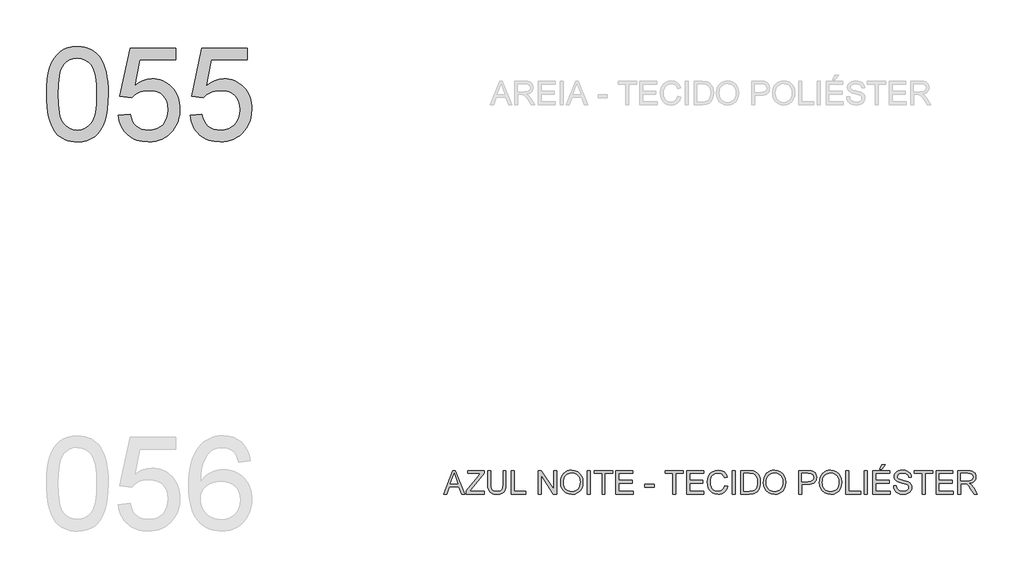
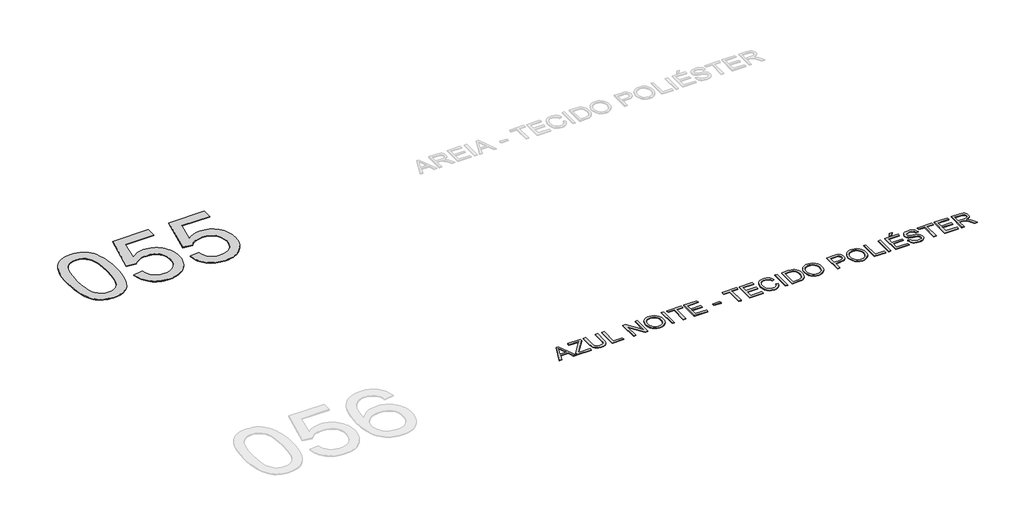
# One storey, part 17 of 67: 2 proxies.
"""IFC4 building model written with IfcOpenShell, lengths in millimetres."""

from ifc_helpers import new_model, si_unit, origin, origin_with_axes, place, context, project, spatial, polyline, outline, extrude, element, save

model = new_model("IFC4")

# Units and contexts
model_context = context("Model", 3, world=origin())
ifc_project = project(units=[si_unit("LENGTHUNIT", "METRE", prefix="MILLI")], contexts=[model_context])

# Site, building, storey
site = spatial("IfcSite", under=ifc_project)
building = spatial("IfcBuilding", under=site)
storey = spatial("IfcBuildingStorey", under=building, Name="Marelli - Linha COLAB - Planta Baixa", Elevation=0.0)

# Proxies
placement = place(None, origin())
element("IfcBuildingElementProxy", 1, Name="1200mm Arial", ObjectType="1200mm Arial", at=placement, inside=storey, context=model_context, shape_type="SweptSolid", body=[
    extrude(outline(polyline([(-25134.0424838, -39895.792664), (-25131.2741718, -39794.4319773), (-25122.9692358, -39702.8385576), (-25109.1276757, -39621.0124048), (-25089.7494916, -39548.953519), (-25064.9174569, -39486.073289), (-25034.7143451, -39431.7831035), (-24999.1401562, -39386.0829627), (-24958.1948901, -39348.9728664), (-24911.7405912, -39320.2596767), (-24859.6393036, -39299.7502555), (-24801.8910274, -39287.4446027), (-24738.4957626, -39283.3427185), (-24690.8550442, -39285.7707396), (-24645.642347, -39293.0548031), (-24602.857671, -39305.194909), (-24562.5010161, -39322.1910572), (-24525.5472697, -39343.7581391), (-24492.971319, -39369.6110463), (-24464.7731641, -39399.7497788), (-24440.9528049, -39434.1743365), (-24420.314625, -39472.7467637), (-24401.6630078, -39515.3291046), (-24370.3194618, -39612.5235278), (-24358.3449029, -39669.6831928), (-24349.7916465, -39735.9479371), (-24344.6596927, -39811.3177609), (-24342.9490414, -39895.792664), (-24345.6897623, -39996.5095573), (-24353.9119248, -40087.6431245), (-24367.6155292, -40169.1933658), (-24386.8005752, -40241.1602811), (-24411.4394718, -40304.0681023), (-24441.5046279, -40358.4410612), (-24476.9960434, -40404.2791578), (-24517.9137183, -40441.5823921), (-24564.4231995, -40470.4887199), (-24616.690034, -40491.1360968), (-24674.7142217, -40503.524523), (-24738.4957626, -40507.6539984), (-24781.170074, -40505.8605737), (-24821.4899407, -40500.4802995), (-24859.4553626, -40491.5131759), (-24895.0663398, -40478.9592028), (-24928.3228721, -40462.8183803), (-24959.2249597, -40443.0907083), (-24987.7726025, -40419.7761868), (-25013.9658006, -40392.8748159), (-25042.1087732, -40350.2786794), (-25066.4993495, -40302.0999336), (-25087.1375294, -40248.3385785), (-25104.023313, -40188.9946142), (-25117.1567002, -40124.0680406), (-25126.5376911, -40053.5588577), (-25132.1662856, -39977.4670655), (-25134.0424838, -39895.792664)]), holes=[polyline([(-24983.3580186, -39895.4983584), (-24978.9434347, -40026.4919399), (-24965.6996828, -40132.5247279), (-24955.766869, -40176.1808245), (-24943.6267631, -40213.5967226), (-24929.2793653, -40244.7724225), (-24912.7246755, -40269.7079239), (-24875.3478648, -40307.884878), (-24833.8507758, -40335.1541309), (-24788.2334084, -40351.5156826), (-24738.4957626, -40356.9695332), (-24688.7581169, -40351.4972885), (-24643.1407495, -40335.0805545), (-24601.6436604, -40307.7193311), (-24564.2668497, -40269.4136183), (-24547.7121599, -40244.418336), (-24533.3647621, -40213.2104465), (-24521.2246563, -40175.7899498), (-24511.2918424, -40132.1568459), (-24498.0480906, -40026.2528166), (-24493.6335066, -39895.4983584), (-24497.9009378, -39767.9720648), (-24510.7032312, -39663.8062779), (-24520.3049513, -39620.4835744), (-24532.0403869, -39583.0009976), (-24545.9095381, -39551.3585475), (-24561.9124049, -39525.5562241), (-24598.6638162, -39485.5122689), (-24640.6391519, -39456.9094438), (-24687.8384119, -39439.7477487), (-24740.2615962, -39434.0271837), (-24789.7417245, -39439.067167), (-24834.5865397, -39454.187117), (-24874.7960418, -39479.3870337), (-24910.3702308, -39514.666917), (-24927.4767435, -39543.2145599), (-24942.3023879, -39577.2068562), (-24954.847164, -39616.6438061), (-24965.1110716, -39661.5254095), (-24978.7962819, -39767.6225769), (-24983.3580186, -39895.4983584)])]), origin_with_axes(), (0.0, 0.0, 1.0), 10.0),
    extrude(outline(polyline([(-24211.1001343, -40168.6139517), (-24060.4156691, -40149.7783935), (-24049.15848, -40198.2192552), (-24032.7509431, -40240.2405761), (-24011.1930581, -40275.8423562), (-23984.4848253, -40305.0245955), (-23952.6814268, -40327.7505057), (-23915.838045, -40343.9832988), (-23873.9546798, -40353.7229746), (-23827.0313314, -40356.9695332), (-23769.6417401, -40352.4537817), (-23719.0211776, -40338.9065272), (-23675.1696437, -40316.3277698), (-23638.0871386, -40284.7175093), (-23608.6013967, -40245.6392444), (-23587.5401525, -40200.6564734), (-23574.903406, -40149.7691965), (-23570.6911571, -40092.9774135), (-23574.6366915, -40039.3034304), (-23586.4732947, -39991.5891356), (-23606.2009667, -39949.8345291), (-23633.8197075, -39914.039611), (-23669.4214876, -39885.3264213), (-23713.0982775, -39864.817), (-23764.8500771, -39852.5113473), (-23824.6768866, -39848.4094631), (-23862.9642052, -39850.0465379), (-23897.775039, -39854.9577626), (-23929.109388, -39863.143137), (-23956.9672521, -39874.6026611), (-24004.2400884, -39904.6954083), (-24041.5801109, -39942.5872538), (-24192.2645762, -39923.7516957), (-24060.4156691, -39302.1782766), (-23476.5133664, -39302.1782766), (-23476.5133664, -39452.8627418), (-23938.5731523, -39452.8627418), (-24003.0260778, -39784.8394543), (-23949.8487354, -39746.7268796), (-23895.3838061, -39719.503612), (-23839.6312897, -39703.1696514), (-23782.5911863, -39697.7249978), (-23745.1522955, -39699.4126565), (-23709.2079254, -39704.4756324), (-23674.7580758, -39712.9139257), (-23641.8027468, -39724.7275363), (-23610.3419384, -39739.9164642), (-23580.3756506, -39758.4807093), (-23551.9038835, -39780.4202718), (-23524.9266369, -39805.7351516), (-23500.3360248, -39833.7033803), (-23479.024161, -39863.6029895), (-23460.9910454, -39895.4339791), (-23446.2366781, -39929.1963492), (-23434.7610592, -39964.8900998), (-23426.5641885, -40002.5152308), (-23421.646066, -40042.0717424), (-23420.0066919, -40083.5596344), (-23425.9111979, -40161.6241938), (-23433.2918304, -40198.6147284), (-23443.624716, -40234.2440996), (-23456.9098545, -40268.5123075), (-23473.1472461, -40301.4193519), (-23492.3368907, -40332.965233), (-23514.4787883, -40363.1499507), (-23544.479565, -40397.0180869), (-23577.0923038, -40426.3704716), (-23612.3170049, -40451.2071048), (-23650.1536681, -40471.5279865), (-23690.6022934, -40487.3331167), (-23733.662881, -40498.6224954), (-23779.3354307, -40505.3961227), (-23827.6199425, -40507.6539984), (-23905.3809993, -40501.8506599), (-23941.4403326, -40494.5964869), (-23975.6188692, -40484.4406445), (-24007.9166091, -40471.383133), (-24038.3335523, -40455.4239522), (-24066.8696989, -40436.5631021), (-24093.5250487, -40414.8005828), (-24117.8627419, -40390.6422321), (-24139.4459187, -40364.5938875), (-24158.2745791, -40336.6555493), (-24174.348723, -40306.8272173), (-24187.6683505, -40275.1088915), (-24198.2334615, -40241.500572), (-24211.1001343, -40168.6139517)])), origin_with_axes(), (0.0, 0.0, 1.0), 10.0),
    extrude(outline(polyline([(-23288.1577848, -40168.6139517), (-23137.4733196, -40149.7783935), (-23126.2161305, -40198.2192552), (-23109.8085936, -40240.2405761), (-23088.2507086, -40275.8423562), (-23061.5424758, -40305.0245955), (-23029.7390773, -40327.7505057), (-22992.8956955, -40343.9832988), (-22951.0123303, -40353.7229746), (-22904.0889819, -40356.9695332), (-22846.6993906, -40352.4537817), (-22796.0788281, -40338.9065272), (-22752.2272942, -40316.3277698), (-22715.1447891, -40284.7175093), (-22685.6590472, -40245.6392444), (-22664.597803, -40200.6564734), (-22651.9610565, -40149.7691965), (-22647.7488076, -40092.9774135), (-22651.694342, -40039.3034304), (-22663.5309452, -39991.5891356), (-22683.2586172, -39949.8345291), (-22710.877358, -39914.039611), (-22746.4791381, -39885.3264213), (-22790.155928, -39864.817), (-22841.9077276, -39852.5113473), (-22901.7345371, -39848.4094631), (-22940.0218557, -39850.0465379), (-22974.8326895, -39854.9577626), (-23006.1670385, -39863.143137), (-23034.0249026, -39874.6026611), (-23081.2977389, -39904.6954083), (-23118.6377614, -39942.5872538), (-23269.3222267, -39923.7516957), (-23137.4733196, -39302.1782766), (-22553.5710169, -39302.1782766), (-22553.5710169, -39452.8627418), (-23015.6308028, -39452.8627418), (-23080.0837284, -39784.8394543), (-23026.9063859, -39746.7268796), (-22972.4414566, -39719.503612), (-22916.6889402, -39703.1696514), (-22859.6488368, -39697.7249978), (-22822.209946, -39699.4126565), (-22786.2655759, -39704.4756324), (-22751.8157263, -39712.9139257), (-22718.8603973, -39724.7275363), (-22687.3995889, -39739.9164642), (-22657.4333011, -39758.4807093), (-22628.961534, -39780.4202718), (-22601.9842874, -39805.7351516), (-22577.3936753, -39833.7033803), (-22556.0818115, -39863.6029895), (-22538.0486959, -39895.4339791), (-22523.2943287, -39929.1963492), (-22511.8187097, -39964.8900998), (-22503.621839, -40002.5152308), (-22498.7037165, -40042.0717424), (-22497.0643424, -40083.5596344), (-22502.9688484, -40161.6241938), (-22510.3494809, -40198.6147284), (-22520.6823665, -40234.2440996), (-22533.967505, -40268.5123075), (-22550.2048966, -40301.4193519), (-22569.3945412, -40332.965233), (-22591.5364388, -40363.1499507), (-22621.5372155, -40397.0180869), (-22654.1499543, -40426.3704716), (-22689.3746554, -40451.2071048), (-22727.2113186, -40471.5279865), (-22767.6599439, -40487.3331167), (-22810.7205315, -40498.6224954), (-22856.3930812, -40505.3961227), (-22904.677593, -40507.6539984), (-22982.4386498, -40501.8506599), (-23018.4979831, -40494.5964869), (-23052.6765197, -40484.4406445), (-23084.9742596, -40471.383133), (-23115.3912028, -40455.4239522), (-23143.9273494, -40436.5631021), (-23170.5826992, -40414.8005828), (-23194.9203924, -40390.6422321), (-23216.5035692, -40364.5938875), (-23235.3322296, -40336.6555493), (-23251.4063735, -40306.8272173), (-23264.726001, -40275.1088915), (-23275.291112, -40241.500572), (-23288.1577848, -40168.6139517)])), origin_with_axes(), (0.0, 0.0, 1.0), 10.0),
])
element("IfcBuildingElementProxy", 2, Name="300mm Arial", ObjectType="300mm Arial", at=placement, inside=storey, context=model_context, shape_type="SweptSolid", body=[
    extrude(outline(polyline([(-20035.3554191, -45030.5663201), (-19915.0580067, -44729.1973896), (-19882.9786967, -44729.1973896), (-19762.6812843, -45030.5663201), (-19802.4861162, -45030.5663201), (-19836.9934473, -44936.3885293), (-19961.1168325, -44936.3885293), (-19995.5505873, -45030.5663201), (-20035.3554191, -45030.5663201)]), holes=[polyline([(-19947.2844695, -44898.717413), (-19850.752234, -44898.717413), (-19877.9019252, -44824.6259792), (-19899.0183517, -44766.8685059), (-19917.7803335, -44818.1512561), (-19947.2844695, -44898.717413)])]), origin_with_axes(), (0.0, 0.0, 1.0), 10.0),
    extrude(outline(polyline([(-19745.9794417, -45030.5663201), (-19745.9794417, -44991.4972522), (-19591.8368858, -44802.7737887), (-19562.5534789, -44766.8685059), (-19727.1438836, -44766.8685059), (-19727.1438836, -44729.1973896), (-19515.2438544, -44729.1973896), (-19515.2438544, -44766.8685059), (-19683.9545373, -44973.397458), (-19699.8470395, -44992.8952038), (-19510.5349648, -44992.8952038), (-19510.5349648, -45030.5663201), (-19745.9794417, -45030.5663201)])), origin_with_axes(), (0.0, 0.0, 1.0), 10.0),
    extrude(outline(polyline([(-19270.3815984, -44729.1973896), (-19232.7104821, -44729.1973896), (-19232.7104821, -44903.0584205), (-19235.2672619, -44943.7737604), (-19242.9376015, -44975.1265034), (-19257.2666052, -44999.3147446), (-19279.7993774, -45018.5365788), (-19310.5911004, -45031.0905519), (-19349.6969565, -45035.2752096), (-19387.947487, -45031.6331779), (-19418.5276778, -45020.7070826), (-19441.4467261, -45002.8740029), (-19456.7138289, -44978.5110178), (-19465.2946765, -44945.8338995), (-19468.154959, -44903.0584205), (-19468.154959, -44729.1973896), (-19430.4838427, -44729.1973896), (-19430.4838427, -44901.7340454), (-19428.6260386, -44935.588386), (-19423.0526264, -44959.1604248), (-19412.9542656, -44975.4851883), (-19397.5216159, -44987.597703), (-19377.3984708, -44995.1024957), (-19353.2286237, -44997.6040933), (-19314.9137139, -44992.6560805), (-19300.5709146, -44986.4710644), (-19289.4378857, -44977.812042), (-19281.10076, -44965.6351479), (-19275.1456702, -44948.8965171), (-19270.3815984, -44901.7340454), (-19270.3815984, -44729.1973896)])), origin_with_axes(), (0.0, 0.0, 1.0), 10.0),
    extrude(outline(polyline([(-19166.7860285, -45030.5663201), (-19166.7860285, -44729.1973896), (-19129.1149122, -44729.1973896), (-19129.1149122, -44992.8952038), (-18978.430447, -44992.8952038), (-18978.430447, -45030.5663201), (-19166.7860285, -45030.5663201)])), origin_with_axes(), (0.0, 0.0, 1.0), 10.0),
    extrude(outline(polyline([(-18818.3282027, -45030.5663201), (-18818.3282027, -44729.1973896), (-18778.008336, -44729.1973896), (-18620.5548421, -44967.9528045), (-18620.5548421, -44729.1973896), (-18582.8837258, -44729.1973896), (-18582.8837258, -45030.5663201), (-18623.2035925, -45030.5663201), (-18780.6570864, -44791.7373288), (-18780.6570864, -45030.5663201), (-18818.3282027, -45030.5663201)])), origin_with_axes(), (0.0, 0.0, 1.0), 10.0),
    extrude(outline(polyline([(-18531.0859409, -44883.8549804), (-18528.5751462, -44848.5061192), (-18521.0427624, -44817.213157), (-18508.4887893, -44789.9760937), (-18490.913227, -44766.7949295), (-18469.3691376, -44748.2858666), (-18444.9095835, -44735.0651074), (-18417.5345645, -44727.1326519), (-18387.2440807, -44724.4885001), (-18347.7151604, -44729.454907), (-18312.2697301, -44744.3541278), (-18282.8391705, -44768.1376988), (-18261.354862, -44799.7571563), (-18248.2214748, -44837.68579), (-18243.843679, -44880.3968896), (-18248.451401, -44923.6782064), (-18262.274567, -44962.140269), (-18284.5498218, -44993.8149087), (-18314.5138103, -45016.733957), (-18349.6557379, -45030.6398965), (-18387.4648099, -45035.2752096), (-18427.6007356, -45030.1524528), (-18463.2485009, -45014.7841825), (-18492.6054842, -44990.5591531), (-18513.8690635, -44958.8661192), (-18526.7817215, -44922.3998164), (-18531.0859409, -44883.8549804)]), holes=[polyline([(-18493.4148246, -44884.2228624), (-18491.5317286, -44909.1974513), (-18485.8824407, -44931.3669401), (-18476.4669609, -44950.7313286), (-18463.2852891, -44967.2906169), (-18447.261729, -44980.5527628), (-18429.3205839, -44990.0257242), (-18409.461854, -44995.709501), (-18387.6855391, -44997.6040933), (-18365.5367438, -44995.6911069), (-18345.443489, -44989.9521478), (-18327.405775, -44980.3872159), (-18311.4236015, -44966.9963113), (-18298.3384988, -44950.0875351), (-18288.9919969, -44929.9689885), (-18283.3840957, -44906.6406715), (-18281.5147953, -44880.102584), (-18284.7153687, -44846.7540812), (-18294.3170888, -44817.9305269), (-18310.0716352, -44794.358488), (-18331.7306877, -44776.7645316), (-18357.8595064, -44765.8108452), (-18387.0233515, -44762.1596164), (-18408.043209, -44763.9185522), (-18427.5455533, -44769.1953595), (-18445.5303844, -44777.9900385), (-18461.9977022, -44790.302589), (-18475.7426932, -44806.7262208), (-18485.560544, -44827.8541437), (-18491.4512544, -44853.6863575), (-18493.4148246, -44884.2228624)])]), origin_with_axes(), (0.0, 0.0, 1.0), 10.0),
    extrude(outline(polyline([(-18187.3370046, -45030.5663201), (-18187.3370046, -44729.1973896), (-18149.6658883, -44729.1973896), (-18149.6658883, -45030.5663201), (-18187.3370046, -45030.5663201)])), origin_with_axes(), (0.0, 0.0, 1.0), 10.0),
    extrude(outline(polyline([(-17998.981423, -45030.5663201), (-17998.981423, -44766.8685059), (-18097.8681033, -44766.8685059), (-18097.8681033, -44729.1973896), (-17862.4236264, -44729.1973896), (-17862.4236264, -44766.8685059), (-17961.3103067, -44766.8685059), (-17961.3103067, -45030.5663201), (-17998.981423, -45030.5663201)])), origin_with_axes(), (0.0, 0.0, 1.0), 10.0),
    extrude(outline(polyline([(-17820.0436206, -45030.5663201), (-17820.0436206, -44729.1973896), (-17603.4347018, -44729.1973896), (-17603.4347018, -44766.8685059), (-17782.3725043, -44766.8685059), (-17782.3725043, -44856.3374072), (-17612.8524809, -44856.3374072), (-17612.8524809, -44894.0085235), (-17782.3725043, -44894.0085235), (-17782.3725043, -44992.8952038), (-17598.7258123, -44992.8952038), (-17598.7258123, -45030.5663201), (-17820.0436206, -45030.5663201)])), origin_with_axes(), (0.0, 0.0, 1.0), 10.0),
    extrude(outline(polyline([(-17448.0413471, -44941.0974188), (-17448.0413471, -44903.4263025), (-17330.3191086, -44903.4263025), (-17330.3191086, -44941.0974188), (-17448.0413471, -44941.0974188)])), origin_with_axes(), (0.0, 0.0, 1.0), 10.0),
    extrude(outline(polyline([(-17090.1657422, -45030.5663201), (-17090.1657422, -44766.8685059), (-17189.0524225, -44766.8685059), (-17189.0524225, -44729.1973896), (-16953.6079455, -44729.1973896), (-16953.6079455, -44766.8685059), (-17052.4946258, -44766.8685059), (-17052.4946258, -45030.5663201), (-17090.1657422, -45030.5663201)])), origin_with_axes(), (0.0, 0.0, 1.0), 10.0),
    extrude(outline(polyline([(-16911.2279397, -45030.5663201), (-16911.2279397, -44729.1973896), (-16694.6190209, -44729.1973896), (-16694.6190209, -44766.8685059), (-16873.5568234, -44766.8685059), (-16873.5568234, -44856.3374072), (-16704.0368, -44856.3374072), (-16704.0368, -44894.0085235), (-16873.5568234, -44894.0085235), (-16873.5568234, -44992.8952038), (-16689.9101314, -44992.8952038), (-16689.9101314, -45030.5663201), (-16911.2279397, -45030.5663201)])), origin_with_axes(), (0.0, 0.0, 1.0), 10.0),
    extrude(outline(polyline([(-16421.5034277, -44923.4390831), (-16383.8323114, -44933.1511677), (-16391.2865203, -44956.5783531), (-16401.2147357, -44977.0486868), (-16413.6169574, -44994.5621691), (-16428.4931856, -45009.1187997), (-16445.5077279, -45020.5622291), (-16464.324892, -45028.7361071), (-16484.9446778, -45033.640434), (-16507.3670854, -45035.2752096), (-16551.0622694, -45030.3271968), (-16585.7627386, -45015.4831583), (-16612.3606068, -44991.2581289), (-16631.747988, -44958.1671434), (-16643.5845912, -44919.2636224), (-16647.5301256, -44877.6009865), (-16643.0695564, -44833.6574821), (-16629.6878488, -44795.7104543), (-16608.0839786, -44764.9647166), (-16578.9569217, -44742.6250824), (-16544.4128023, -44729.0226457), (-16506.557745, -44724.4885001), (-16465.253794, -44730.3562179), (-16447.2850578, -44737.6908652), (-16431.1051478, -44747.9593714), (-16416.9807784, -44760.8904235), (-16405.1786642, -44776.2127086), (-16388.541201, -44814.0309777), (-16426.2123173, -44823.0072984), (-16439.2721281, -44795.5357104), (-16457.1144049, -44776.6909552), (-16479.9598768, -44765.7924511), (-16508.029273, -44762.1596164), (-16540.3844945, -44766.1879242), (-16566.9639686, -44778.2728478), (-16587.133099, -44797.1451941), (-16600.2572892, -44821.5357704), (-16607.4585792, -44849.1085259), (-16609.8590092, -44877.5274101), (-16607.0171208, -44912.3290468), (-16598.4914556, -44942.421794), (-16583.9601168, -44966.6560205), (-16563.1012077, -44983.8820949), (-16538.094429, -44994.1735937), (-16511.1194817, -44997.6040933), (-16479.6747682, -44992.931992), (-16453.4723731, -44978.9156879), (-16433.6895188, -44955.702334), (-16421.5034277, -44923.4390831)])), origin_with_axes(), (0.0, 0.0, 1.0), 10.0),
    extrude(outline(polyline([(-16327.325637, -45030.5663201), (-16327.325637, -44729.1973896), (-16289.6545206, -44729.1973896), (-16289.6545206, -45030.5663201), (-16327.325637, -45030.5663201)])), origin_with_axes(), (0.0, 0.0, 1.0), 10.0),
    extrude(outline(polyline([(-16214.312288, -45030.5663201), (-16214.312288, -44729.1973896), (-16110.3488362, -44729.1973896), (-16056.5644885, -44733.5383972), (-16032.5417942, -44741.9077126), (-16012.2714963, -44755.0962821), (-15991.4309813, -44778.0521186), (-15976.5869428, -44806.5997614), (-15967.7025926, -44840.1873876), (-15964.7411425, -44878.2631741), (-15966.7460994, -44910.6091985), (-15972.76097, -44939.0740679), (-15981.9212317, -44963.3082943), (-15993.3623617, -44982.9623899), (-16006.5325372, -44998.477813), (-16020.879935, -45010.2960221), (-16037.3518513, -45019.0608107), (-16056.8955823, -45025.4159721), (-16105.3456411, -45030.5663201), (-16214.312288, -45030.5663201)]), holes=[polyline([(-16176.6411717, -44992.8952038), (-16109.9809542, -44992.8952038), (-16082.4081987, -44991.5340404), (-16061.4941072, -44987.4505502), (-16045.7119696, -44980.8838566), (-16033.5350756, -44972.0730828), (-16020.4476736, -44955.7667134), (-16010.6160273, -44934.6594839), (-16004.4632009, -44908.6594239), (-16002.4122588, -44877.6745629), (-16006.4313696, -44836.6189322), (-16018.488702, -44806.3054558), (-16036.3033876, -44785.4833349), (-16057.5945581, -44772.9017706), (-16079.2628076, -44768.3768221), (-16111.0110238, -44766.8685059), (-16176.6411717, -44766.8685059), (-16176.6411717, -44992.8952038)])]), origin_with_axes(), (0.0, 0.0, 1.0), 10.0),
    extrude(outline(polyline([(-15927.0700262, -44883.8549804), (-15924.5592316, -44848.5061192), (-15917.0268477, -44817.213157), (-15904.4728746, -44789.9760937), (-15886.8973123, -44766.7949295), (-15865.353223, -44748.2858666), (-15840.8936688, -44735.0651074), (-15813.5186499, -44727.1326519), (-15783.2281661, -44724.4885001), (-15743.6992457, -44729.454907), (-15708.2538155, -44744.3541278), (-15678.8232559, -44768.1376988), (-15657.3389473, -44799.7571563), (-15644.2055601, -44837.68579), (-15639.8277644, -44880.3968896), (-15644.4354864, -44923.6782064), (-15658.2586523, -44962.140269), (-15680.5339071, -44993.8149087), (-15710.4978956, -45016.733957), (-15745.6398232, -45030.6398965), (-15783.4488953, -45035.2752096), (-15823.584821, -45030.1524528), (-15859.2325863, -45014.7841825), (-15888.5895695, -44990.5591531), (-15909.8531488, -44958.8661192), (-15922.7658069, -44922.3998164), (-15927.0700262, -44883.8549804)]), holes=[polyline([(-15889.3989099, -44884.2228624), (-15887.5158139, -44909.1974513), (-15881.866526, -44931.3669401), (-15872.4510462, -44950.7313286), (-15859.2693745, -44967.2906169), (-15843.2458143, -44980.5527628), (-15825.3046693, -44990.0257242), (-15805.4459393, -44995.709501), (-15783.6696245, -44997.6040933), (-15761.5208291, -44995.6911069), (-15741.4275744, -44989.9521478), (-15723.3898603, -44980.3872159), (-15707.4076869, -44966.9963113), (-15694.3225842, -44950.0875351), (-15684.9760822, -44929.9689885), (-15679.3681811, -44906.6406715), (-15677.4988807, -44880.102584), (-15680.699454, -44846.7540812), (-15690.3011741, -44817.9305269), (-15706.0557205, -44794.358488), (-15727.714773, -44776.7645316), (-15753.8435917, -44765.8108452), (-15783.0074369, -44762.1596164), (-15804.0272944, -44763.9185522), (-15823.5296387, -44769.1953595), (-15841.5144697, -44777.9900385), (-15857.9817875, -44790.302589), (-15871.7267786, -44806.7262208), (-15881.5446293, -44827.8541437), (-15887.4353397, -44853.6863575), (-15889.3989099, -44884.2228624)])]), origin_with_axes(), (0.0, 0.0, 1.0), 10.0),
    extrude(outline(polyline([(-15470.307741, -45030.5663201), (-15470.307741, -44729.1973896), (-15358.6187673, -44729.1973896), (-15313.590011, -44732.0668692), (-15293.5128512, -44737.4287493), (-15276.9857525, -44746.1567496), (-15263.6776213, -44758.6463433), (-15253.2573638, -44775.2930036), (-15246.5251233, -44794.9287051), (-15244.2810432, -44816.3854225), (-15245.7962571, -44834.8852883), (-15250.341899, -44851.9044291), (-15257.9179689, -44867.4428449), (-15268.5244666, -44881.5005356), (-15283.0856959, -44893.1531978), (-15302.52596, -44901.476528), (-15326.8452592, -44906.470526), (-15356.0435933, -44908.1351921), (-15432.6366247, -44908.1351921), (-15432.6366247, -45030.5663201), (-15470.307741, -45030.5663201)]), holes=[polyline([(-15432.6366247, -44870.4640758), (-15353.8363013, -44870.4640758), (-15320.4326162, -44867.005985), (-15298.3596964, -44856.6317127), (-15286.0540437, -44839.9850525), (-15281.9521595, -44817.7097977), (-15284.3709836, -44800.7872259), (-15291.6274559, -44786.5134045), (-15302.8202656, -44775.7712502), (-15317.0481018, -44769.4436799), (-15354.7192181, -44766.8685059), (-15432.6366247, -44766.8685059), (-15432.6366247, -44870.4640758)])]), origin_with_axes(), (0.0, 0.0, 1.0), 10.0),
    extrude(outline(polyline([(-15206.6099268, -44883.8549804), (-15204.0991322, -44848.5061192), (-15196.5667484, -44817.213157), (-15184.0127753, -44789.9760937), (-15166.437213, -44766.7949295), (-15144.8931236, -44748.2858666), (-15120.4335695, -44735.0651074), (-15093.0585505, -44727.1326519), (-15062.7680667, -44724.4885001), (-15023.2391464, -44729.454907), (-14987.7937161, -44744.3541278), (-14958.3631565, -44768.1376988), (-14936.878848, -44799.7571563), (-14923.7454608, -44837.68579), (-14919.367665, -44880.3968896), (-14923.975387, -44923.6782064), (-14937.798553, -44962.140269), (-14960.0738078, -44993.8149087), (-14990.0377963, -45016.733957), (-15025.1797239, -45030.6398965), (-15062.9887959, -45035.2752096), (-15103.1247216, -45030.1524528), (-15138.7724869, -45014.7841825), (-15168.1294702, -44990.5591531), (-15189.3930495, -44958.8661192), (-15202.3057075, -44922.3998164), (-15206.6099268, -44883.8549804)]), holes=[polyline([(-15168.9388105, -44884.2228624), (-15167.0557146, -44909.1974513), (-15161.4064267, -44931.3669401), (-15151.9909469, -44950.7313286), (-15138.8092751, -44967.2906169), (-15122.785715, -44980.5527628), (-15104.8445699, -44990.0257242), (-15084.98584, -44995.709501), (-15063.2095251, -44997.6040933), (-15041.0607298, -44995.6911069), (-15020.967475, -44989.9521478), (-15002.929761, -44980.3872159), (-14986.9475875, -44966.9963113), (-14973.8624848, -44950.0875351), (-14964.5159829, -44929.9689885), (-14958.9080817, -44906.6406715), (-14957.0387813, -44880.102584), (-14960.2393547, -44846.7540812), (-14969.8410748, -44817.9305269), (-14985.5956212, -44794.358488), (-15007.2546737, -44776.7645316), (-15033.3834924, -44765.8108452), (-15062.5473375, -44762.1596164), (-15083.567195, -44763.9185522), (-15103.0695393, -44769.1953595), (-15121.0543703, -44777.9900385), (-15137.5216882, -44790.302589), (-15151.2666792, -44806.7262208), (-15161.0845299, -44827.8541437), (-15166.9752404, -44853.6863575), (-15168.9388105, -44884.2228624)])]), origin_with_axes(), (0.0, 0.0, 1.0), 10.0),
    extrude(outline(polyline([(-14867.5698801, -45030.5663201), (-14867.5698801, -44729.1973896), (-14829.8987638, -44729.1973896), (-14829.8987638, -44992.8952038), (-14679.2142986, -44992.8952038), (-14679.2142986, -45030.5663201), (-14867.5698801, -45030.5663201)])), origin_with_axes(), (0.0, 0.0, 1.0), 10.0),
    extrude(outline(polyline([(-14632.1254032, -45030.5663201), (-14632.1254032, -44729.1973896), (-14594.4542869, -44729.1973896), (-14594.4542869, -45030.5663201), (-14632.1254032, -45030.5663201)])), origin_with_axes(), (0.0, 0.0, 1.0), 10.0),
    extrude(outline(polyline([(-14519.1120543, -45030.5663201), (-14519.1120543, -44729.1973896), (-14302.5031355, -44729.1973896), (-14302.5031355, -44766.8685059), (-14481.440938, -44766.8685059), (-14481.440938, -44856.3374072), (-14311.9209146, -44856.3374072), (-14311.9209146, -44894.0085235), (-14481.440938, -44894.0085235), (-14481.440938, -44992.8952038), (-14297.794246, -44992.8952038), (-14297.794246, -45030.5663201), (-14519.1120543, -45030.5663201)])), origin_with_axes(), (0.0, 0.0, 1.0), 10.0),
    extrude(outline(polyline([(-14434.3520426, -44710.3618315), (-14406.0987053, -44653.855157), (-14359.00981, -44653.855157), (-14406.0987053, -44710.3618315), (-14434.3520426, -44710.3618315)])), origin_with_axes(), (0.0, 0.0, 1.0), 10.0),
    extrude(outline(polyline([(-14255.4142401, -44926.9707502), (-14217.7431238, -44926.9707502), (-14213.4205104, -44947.8756446), (-14205.603018, -44964.6786547), (-14193.4077298, -44978.0143771), (-14175.9517292, -44988.517408), (-14154.6145734, -44995.332422), (-14130.7758202, -44997.6040933), (-14109.7881523, -44995.884245), (-14091.4124467, -44990.7247), (-14076.5224229, -44982.5577197), (-14065.9918008, -44971.8155654), (-14059.7286098, -44959.4823216), (-14057.6408795, -44946.5420724), (-14059.204378, -44933.932917), (-14063.8948734, -44923.0344129), (-14073.4230171, -44913.7361954), (-14089.4994603, -44905.9279001), (-14144.3506658, -44891.5437141), (-14180.3571161, -44882.0247675), (-14203.395726, -44872.9656733), (-14222.1485107, -44860.2921386), (-14235.4382478, -44844.9330653), (-14243.3569077, -44827.2195472), (-14245.996461, -44807.4826782), (-14242.7315083, -44785.4189555), (-14232.9366502, -44764.845155), (-14216.8694041, -44747.4075484), (-14194.7872873, -44734.7524077), (-14168.2813896, -44727.054477), (-14138.9428004, -44724.4885001), (-14107.1577961, -44727.1740386), (-14079.3459172, -44735.2306543), (-14056.5004453, -44748.4928003), (-14039.6146617, -44766.7949295), (-14028.9276898, -44788.9966079), (-14024.6786527, -44813.9574013), (-14062.349769, -44813.9574013), (-14069.2659506, -44791.4798114), (-14083.6869248, -44775.2562154), (-14106.219697, -44765.4337661), (-14137.4712725, -44762.1596164), (-14169.4586119, -44765.3969779), (-14191.402773, -44775.1090626), (-14204.0947018, -44789.4012781), (-14208.3253447, -44806.3790322), (-14205.3271065, -44820.8551887), (-14196.3323917, -44832.4986539), (-14175.0688124, -44842.9097143), (-14134.8225221, -44853.541504), (-14093.2886448, -44863.6398648), (-14068.1623046, -44872.4506385), (-14046.6871931, -44886.1174547), (-14031.7051989, -44902.9848441), (-14022.9036221, -44922.868866), (-14019.9697632, -44945.5855792), (-14023.3450805, -44968.8081301), (-14033.4710324, -44990.6511236), (-14049.9337517, -45009.4498935), (-14072.3193711, -45023.539774), (-14099.2391361, -45032.3413507), (-14129.3042922, -45035.2752096), (-14166.2120533, -45032.1114244), (-14196.5899091, -45022.620069), (-14220.7873473, -45006.764355), (-14239.1538559, -44984.5074943), (-14250.9444739, -44957.3945912), (-14255.4142401, -44926.9707502)])), origin_with_axes(), (0.0, 0.0, 1.0), 10.0),
    extrude(outline(polyline([(-13888.1208561, -45030.5663201), (-13888.1208561, -44766.8685059), (-13987.0075364, -44766.8685059), (-13987.0075364, -44729.1973896), (-13751.5630595, -44729.1973896), (-13751.5630595, -44766.8685059), (-13850.4497398, -44766.8685059), (-13850.4497398, -45030.5663201), (-13888.1208561, -45030.5663201)])), origin_with_axes(), (0.0, 0.0, 1.0), 10.0),
    extrude(outline(polyline([(-13709.1830537, -45030.5663201), (-13709.1830537, -44729.1973896), (-13492.5741349, -44729.1973896), (-13492.5741349, -44766.8685059), (-13671.5119374, -44766.8685059), (-13671.5119374, -44856.3374072), (-13501.991914, -44856.3374072), (-13501.991914, -44894.0085235), (-13671.5119374, -44894.0085235), (-13671.5119374, -44992.8952038), (-13487.8652454, -44992.8952038), (-13487.8652454, -45030.5663201), (-13709.1830537, -45030.5663201)])), origin_with_axes(), (0.0, 0.0, 1.0), 10.0),
    extrude(outline(polyline([(-13431.3585709, -45030.5663201), (-13431.3585709, -44729.1973896), (-13301.4962266, -44729.1973896), (-13266.5934223, -44731.2299376), (-13241.2003676, -44737.3275817), (-13222.640721, -44748.5847708), (-13208.2381408, -44766.0959537), (-13198.9951057, -44787.8101885), (-13195.914094, -44811.6765329), (-13201.0184567, -44841.3646099), (-13216.3315447, -44865.9759154), (-13227.9313239, -44876.0052983), (-13242.3132107, -44884.0205273), (-13279.4233069, -44894.0085235), (-13258.0125748, -44910.1217548), (-13227.4783692, -44948.8965171), (-13177.2256887, -45030.5663201), (-13221.0036461, -45030.5663201), (-13260.2198668, -44968.0999573), (-13288.5467804, -44926.750021), (-13308.4491963, -44907.2154871), (-13326.3650495, -44900.0417882), (-13348.21724, -44898.717413), (-13393.6874546, -44898.717413), (-13393.6874546, -45030.5663201), (-13431.3585709, -45030.5663201)]), holes=[polyline([(-13393.6874546, -44861.0462967), (-13309.3689013, -44861.0462967), (-13285.153069, -44859.7127245), (-13266.3634961, -44855.7120078), (-13252.2184334, -44848.7774322), (-13241.9361316, -44838.6422832), (-13235.6729406, -44826.3826157), (-13233.5852103, -44813.0744845), (-13237.5675329, -44794.6987789), (-13249.5145007, -44779.8915286), (-13270.0699072, -44770.1242616), (-13299.8775458, -44766.8685059), (-13393.6874546, -44766.8685059), (-13393.6874546, -44861.0462967)])]), origin_with_axes(), (0.0, 0.0, 1.0), 10.0),
])

save(model, "model.ifc")
